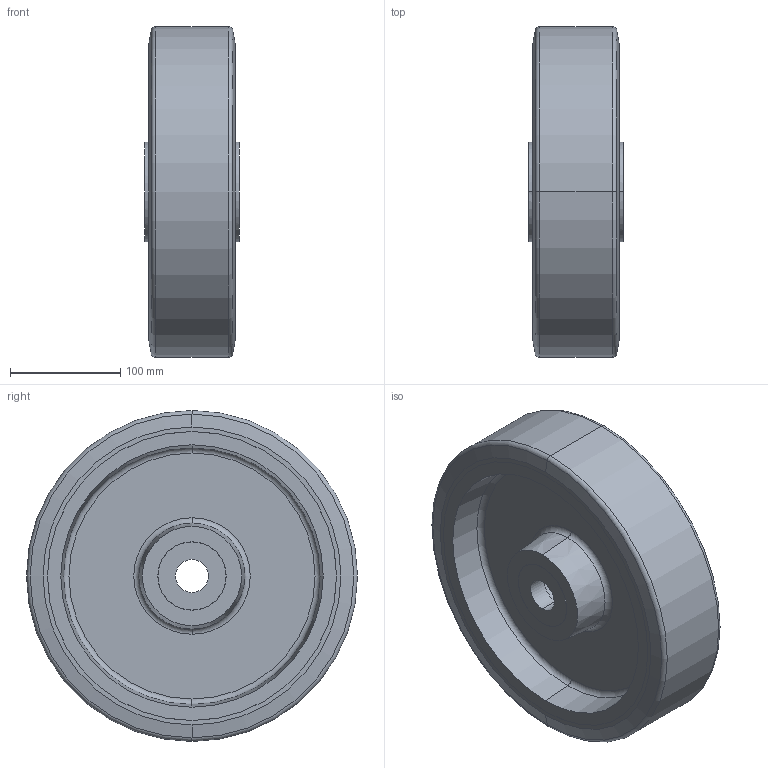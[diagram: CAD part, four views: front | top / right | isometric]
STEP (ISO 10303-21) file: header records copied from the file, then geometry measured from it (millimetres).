
FILE_DESCRIPTION (( 'STEP AP214' ), '1' );
FILE_NAME ('22887-300-K-A.step', '2024-10-28T09:27:02', ( '' ), ( '' ), 'SwSTEP 2.0', 'SolidWorks 2022', '' );
FILE_SCHEMA (( 'AUTOMOTIVE_DESIGN' ));
Length unit declared in the file: millimetre
Products named in the file (1): 22887-300-K-A
Bounding box: 86 x 300 x 300 mm (x, y, z)
Volume: 2987552.9 mm3; surface area: 282332.4 mm2
Topology: 1 solids, 1 shells, 64 faces, 128 edges, 80 vertices
Faces by surface type: cylinder 24, plane 16, cone 12, torus 12
Entity records: 1976 total; most frequent: DIRECTION 350, CARTESIAN_POINT 273, ORIENTED_EDGE 256, AXIS2_PLACEMENT_3D 157, EDGE_CURVE 128, CIRCLE 92, EDGE_LOOP 80, VERTEX_POINT 80
